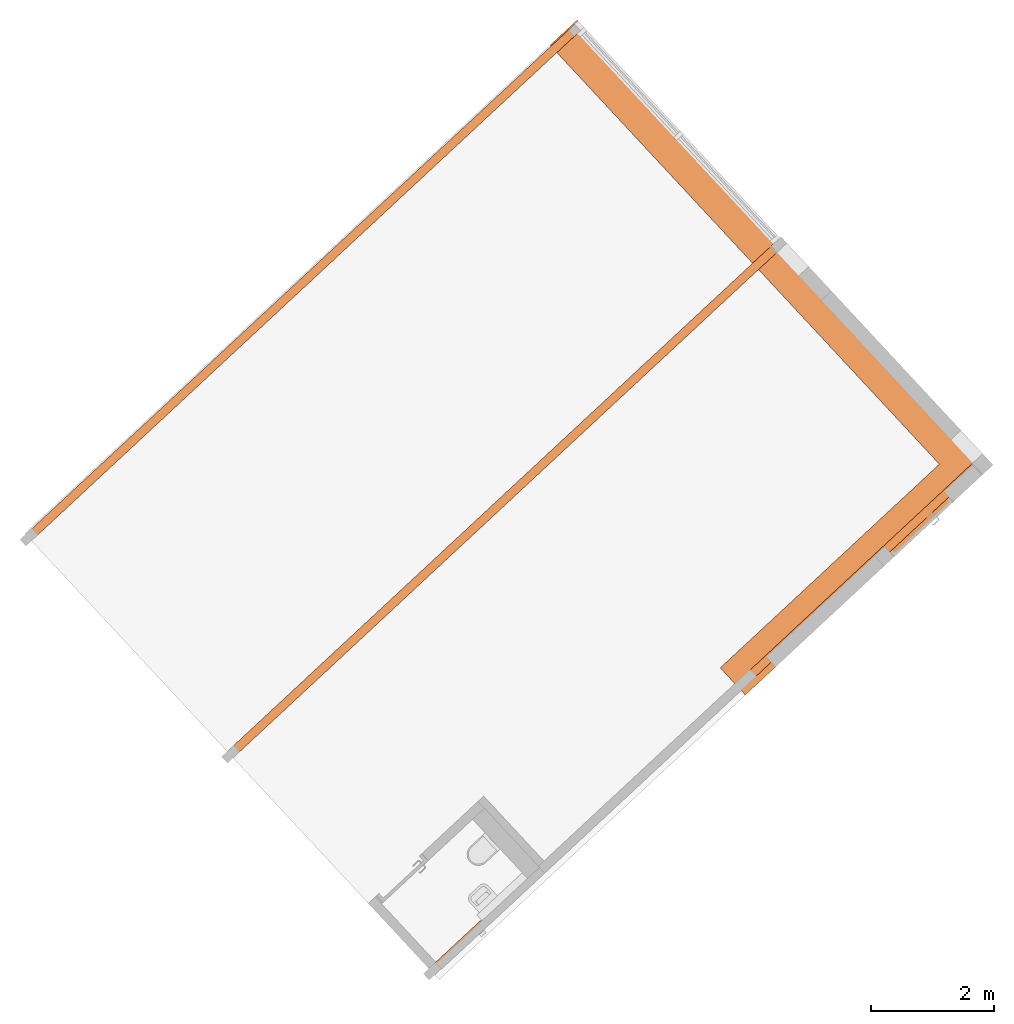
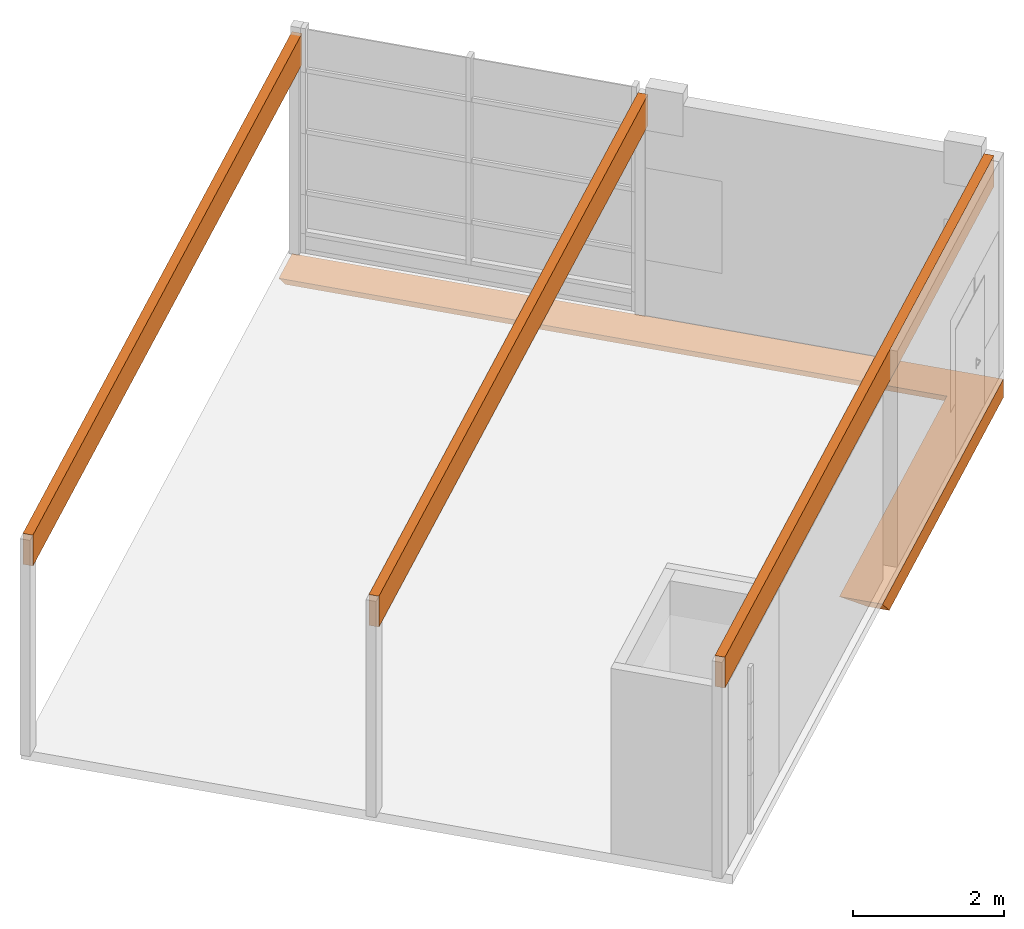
# One storey, part 7 of 7: 4 proxies.
"""IFC2X3 building model written with IfcOpenShell, lengths in millimetres."""

from ifc_helpers import new_model, entity, si_unit, converted_unit, derived_unit, direction, frame, origin, origin_with_axes, place, context, subcontext, project, spatial, faceted_brep, material, type_object, element, save


model = new_model("IFC2X3")

# Units and contexts
model_context = context("Model", 3, precision=0.01, world=origin(), true_north=direction((6.12323399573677e-17, 1.0)))
plan_context = context("Plan", 3, precision=1e-05, world=origin_with_axes())
body_context = subcontext(model_context, "Body", "Model", "MODEL_VIEW")
ifc_project = project(units=[converted_unit("PLANEANGLEUNIT", "DEGREE", entity("IfcPositiveLengthMeasure", 0.0174532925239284), si_unit("PLANEANGLEUNIT", "RADIAN"), dimensions=[0, 0, 0, 0, 0, 0, 0]), si_unit("AREAUNIT", "SQUARE_METRE"), si_unit("LENGTHUNIT", "METRE", prefix="MILLI"), si_unit("MASSUNIT", "GRAM", prefix="KILO"), si_unit("POWERUNIT", "WATT"), si_unit("PRESSUREUNIT", "PASCAL", prefix="KILO"), si_unit("FORCEUNIT", "NEWTON", prefix="KILO"), si_unit("ELECTRICVOLTAGEUNIT", "VOLT"), si_unit("ELECTRICCURRENTUNIT", "AMPERE"), si_unit("THERMODYNAMICTEMPERATUREUNIT", "DEGREE_CELSIUS"), si_unit("TIMEUNIT", "SECOND"), si_unit("VOLUMEUNIT", "CUBIC_METRE"), derived_unit("LINEARVELOCITYUNIT", [(si_unit("LENGTHUNIT", "METRE"), 1), (si_unit("TIMEUNIT", "SECOND"), -1)]), derived_unit("VOLUMETRICFLOWRATEUNIT", [(si_unit("VOLUMEUNIT", "CUBIC_METRE"), 1), (si_unit("TIMEUNIT", "SECOND"), -1)]), derived_unit("THERMALTRANSMITTANCEUNIT", [(si_unit("POWERUNIT", "WATT"), 1), (si_unit("THERMODYNAMICTEMPERATUREUNIT", "KELVIN"), -1), (si_unit("AREAUNIT", "SQUARE_METRE"), -1)]), derived_unit("SOUNDPRESSUREUNIT", [(si_unit("PRESSUREUNIT", "PASCAL"), 1)])], contexts=[model_context, plan_context])

# Site, building, storey
site_placement = place(None, frame((159880.25068742, 140851.808625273, 0.0), z_axis=(0.0, 0.0, 1.0), x_axis=(-0.680735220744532, 0.732529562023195, 0.0)))
site = spatial("IfcSite", under=ifc_project, at=site_placement, Name="Default", CompositionType="ELEMENT")
building_placement = place(site_placement, origin_with_axes())
building = spatial("IfcBuilding", under=site, at=building_placement, CompositionType="ELEMENT")
storey_placement = place(building_placement, frame((0.0, 0.0, 4900.0), z_axis=(0.0, 0.0, 1.0), x_axis=(1.0, 0.0, 0.0)))
storey = spatial("IfcBuildingStorey", under=building, at=storey_placement, Name="001-01", CompositionType="ELEMENT", Elevation=4900.0)

# Proxies
building_element_proxy_type_1 = type_object("IfcBuildingElementProxyType", Name="Slab Edge:Ringmur 600x300mm", PredefinedType="NOTDEFINED")
proxy_placement = place(storey_placement, frame((-99.9999999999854, -175.0, -450.0), z_axis=(0.0, 0.0, 1.0), x_axis=(1.0, 0.0, 0.0)))
element("IfcBuildingElementProxy", 1, at=proxy_placement, inside=storey, type_object=building_element_proxy_type_1, Name="Slab Edge:Ringmur 600x300mm", ObjectType="Slab Edge:Ringmur 600x300mm", context=body_context, shape_type="Brep", body=[
    faceted_brep([(47925.0, 4877.0, 300.0), (47925.0, 5477.0, 300.0), (48525.0, 5477.0, 300.0), (48525.0, 629.0, 300.0), (47925.0, 29.0, 300.0), (57793.1674588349, 629.0, 300.0), (57793.1674588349, 29.0, 300.0), (47925.0, 5177.0, 0.0), (47925.0, 4877.0, 0.0), (48225.0, 5177.0, 0.0), (47925.0, 29.0, 0.0), (48225.0, 329.0, 0.0), (57793.1674588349, 29.0, 0.0), (57793.1674588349, 329.0, 0.0)], [[[0, 1, 2]], [[3, 4, 0, 2]], [[5, 6, 4, 3]], [[7, 8, 9]], [[10, 11, 9, 8]], [[12, 13, 11, 10]], [[6, 12, 10, 4]], [[13, 5, 3, 11]], [[4, 10, 8, 0]], [[11, 3, 2, 9]], [[1, 7, 9, 2]], [[13, 12, 6, 5]], [[8, 7, 1, 0]]], orient=[[False], [False], [False], [False], [False], [False], [False], [False], [False], [False], [False], [False], [False]]),
])
ifc_material = material(Name="TIMBER/C24")
building_element_proxy_type_2 = type_object("IfcBuildingElementProxyType", Name="933*140 48456:933*140 48456", PredefinedType="NOTDEFINED", material=ifc_material)
for number, where, z_axis, x_axis in (
    (2, (48000.0000007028, -69.9999999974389, 3466.50000000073), (0.0, 0.0, 1.0), (0.0, 1.0, 0.0)),
    (3, (52800.0000007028, -69.9999999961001, 3466.50000000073), (0.0, 0.0, 1.0), (0.0, 1.0, 0.0)),
    (4, (57600.0000007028, -69.9999999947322, 3466.50000000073), (0.0, 0.0, 1.0), (0.0, 1.0, 0.0)),
):
    element("IfcBuildingElementProxy", number, at=place(storey_placement, frame(where, z_axis=z_axis, x_axis=x_axis)), inside=storey, type_object=building_element_proxy_type_2, Name="933*140 48456:933*140 48456", ObjectType="933*140 48456:933*140 48456", context=body_context, shape_type="Brep", body=[
        faceted_brep([(0.0, 70.0, 33.4999999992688), (0.0, -70.0, 33.4999999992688), (0.0, -70.0, -466.5), (0.0, 70.0, -466.5), (12140.0, -70.0, 33.4999999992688), (12140.0, -70.0, -466.5), (12140.0, 70.0, 33.4999999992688), (12140.0, 70.0, -466.5)], [[[0, 1, 2, 3]], [[1, 4, 5, 2]], [[4, 6, 7, 5]], [[6, 0, 3, 7]], [[3, 2, 5, 7]], [[6, 4, 1, 0]]], orient=[[False], [False], [False], [False], [False], [False]]),
    ])

save(model, "model.ifc")
